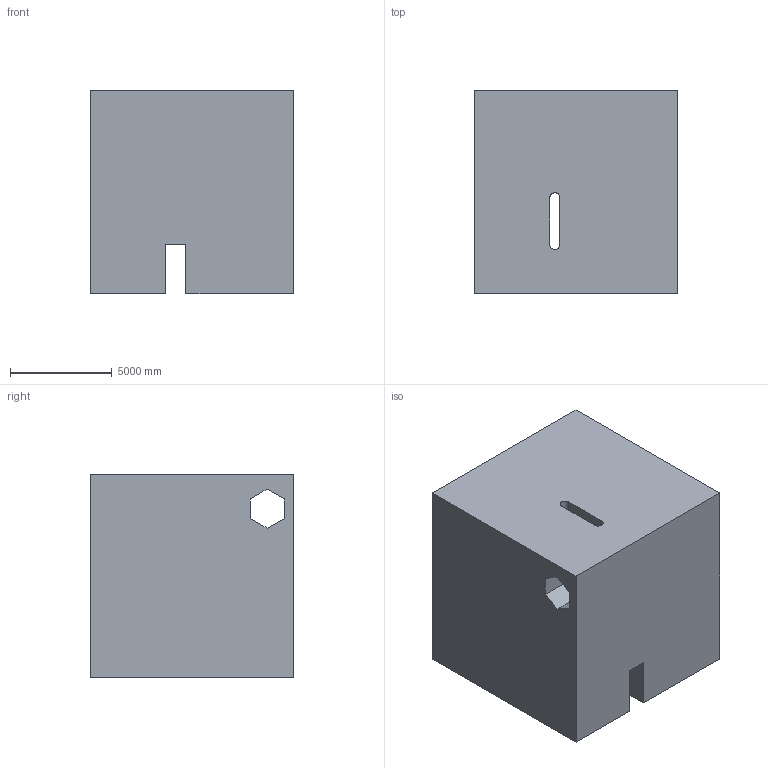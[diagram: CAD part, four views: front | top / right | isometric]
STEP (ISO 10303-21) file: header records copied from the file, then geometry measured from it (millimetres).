
FILE_DESCRIPTION (( 'STEP AP203' ), '1' );
FILE_NAME ('20.STEP', '2022-09-02T13:42:01', ( 'user' ), ( '' ), 'SwSTEP 2.0', 'SolidWorks 2021', '' );
FILE_SCHEMA (( 'CONFIG_CONTROL_DESIGN' ));
Length unit declared in the file: centimetre
Products named in the file (1): 20
Bounding box: 10000 x 10000 x 10000 mm (x, y, z)
Volume: 941501930505 mm3; surface area: 740835817.6 mm2
Topology: 1 solids, 1 shells, 19 faces, 54 edges, 36 vertices
Faces by surface type: plane 17, cylinder 2
Entity records: 697 total; most frequent: CARTESIAN_POINT 110, ORIENTED_EDGE 108, DIRECTION 98, EDGE_CURVE 54, LINE 50, VECTOR 50, VERTEX_POINT 36, AXIS2_PLACEMENT_3D 24
